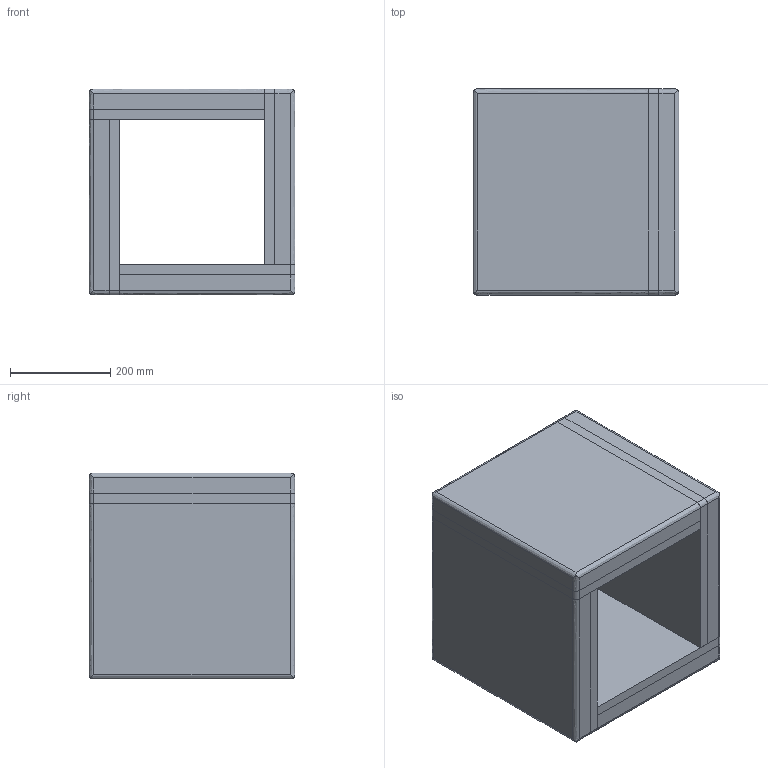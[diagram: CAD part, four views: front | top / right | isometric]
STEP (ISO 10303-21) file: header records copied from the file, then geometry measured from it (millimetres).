
FILE_DESCRIPTION(/* description */ (''),/* implementation_level */ '2;1');
FILE_NAME(/* name */ 'kinoshita_baobabland_k125',/* time_stamp */ '2026-04-02T15:29:32+09:00',/* author */ (''),/* organization */ (''),/* preprocessor_version */ 'ST-DEVELOPER v16.5',/* originating_system */ '',/* authorisation */ '');
FILE_SCHEMA (('AUTOMOTIVE_DESIGN'));
Length unit declared in the file: millimetre
Products named in the file (1): Document
Bounding box: 410 x 410 x 410 mm (x, y, z)
Volume: 34355813.9 mm3; surface area: 2641267.7 mm2
Topology: 8 solids, 8 shells, 76 faces, 180 edges, 120 vertices
Faces by surface type: plane 48, bspline 28
Entity records: 2564 total; most frequent: CARTESIAN_POINT 1338, ORIENTED_EDGE 360, EDGE_CURVE 180, B_SPLINE_CURVE_WITH_KNOTS 148, VERTEX_POINT 120, ADVANCED_FACE 76, FACE_OUTER_BOUND 76, EDGE_LOOP 76
